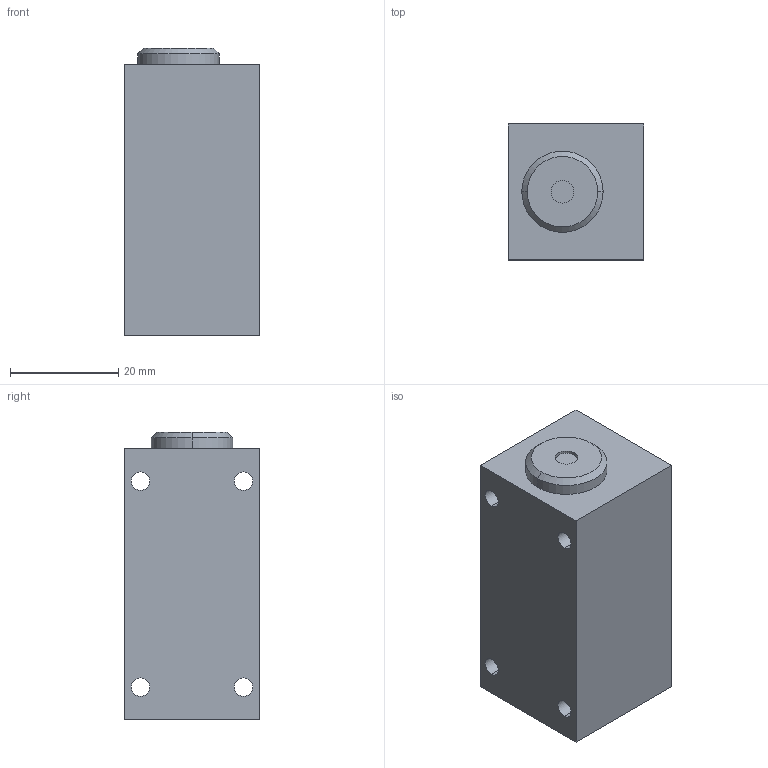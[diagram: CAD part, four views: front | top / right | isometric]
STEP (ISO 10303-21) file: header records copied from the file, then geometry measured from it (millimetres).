
FILE_DESCRIPTION (( 'STEP AP203' ), '1' );
FILE_NAME ('L-25-511_Airtec.step', '2023-12-06T09:06:25', ( '' ), ( '' ), 'SwSTEP 2.0', 'SolidWorks 2014', '' );
FILE_SCHEMA (( 'CONFIG_CONTROL_DESIGN' ));
Length unit declared in the file: millimetre
Products named in the file (1): L-25-511_Airtec
Bounding box: 25 x 25 x 53 mm (x, y, z)
Volume: 30199.4 mm3; surface area: 7993.7 mm2
Topology: 1 solids, 1 shells, 176 faces, 480 edges, 310 vertices
Faces by surface type: plane 136, cylinder 26, cone 14
Entity records: 5493 total; most frequent: CARTESIAN_POINT 955, ORIENTED_EDGE 936, DIRECTION 878, EDGE_CURVE 468, VECTOR 412, LINE 412, VERTEX_POINT 310, AXIS2_PLACEMENT_3D 233
